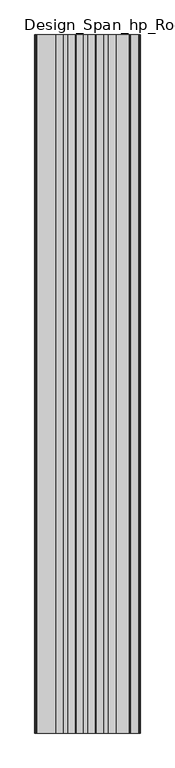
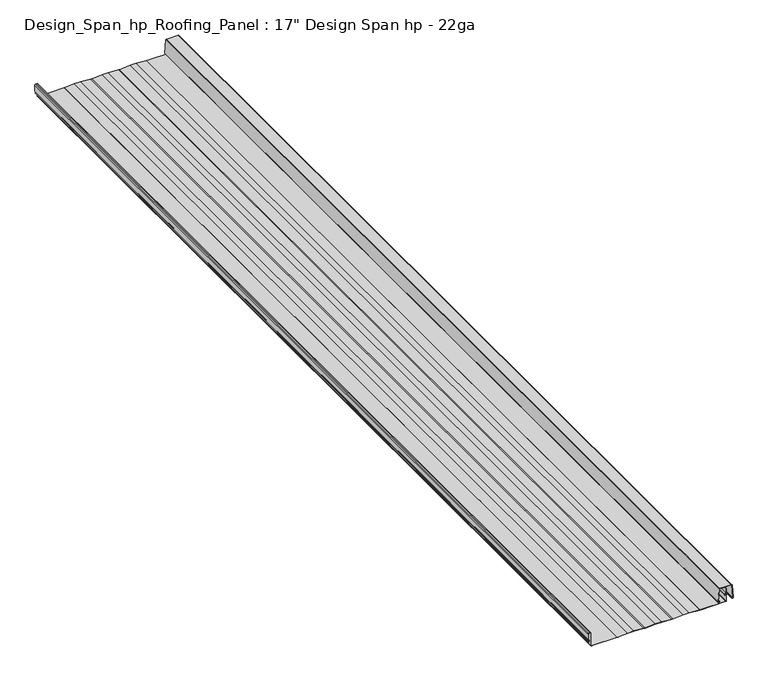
"""IFC4 building model written with IfcOpenShell, lengths in millimetres: proxy geometry."""

from ifc_helpers import new_model, si_unit, point, frame, frame_2d, origin, place, context, project, spatial, polyline, circle_curve, trimmed, segment, composite_curve, outline, extrude, faceted_brep, source, transform, mapped, element, save


def proxy_3b25000a(model_context):
    return source(origin(), model_context, "Body", "SolidModel", [
        extrude(outline(composite_curve([segment(polyline([(4.4419256, 234.1395257), (6.437251, 231.607061), (5.7905442, 231.154232), (3.9442331, 233.7910376)]), True, "CONTINUOUS"), segment(trimmed(circle_curve(frame_2d((5.6861569, 235.0107458)), 2.1264964), [point((3.9442331, 233.7910376))], [point((5.8529999, 237.1306869))], False, "CARTESIAN"), True, "CONTINUOUS"), segment(polyline([(5.8529999, 237.1306869), (48.7328659, 233.7559683)]), True, "CONTINUOUS"), segment(trimmed(circle_curve(frame_2d((48.5958163, 232.0145881)), 1.7467649), [point((48.7328659, 233.7559683))], [point((50.3425812, 232.0145881))], False, "CARTESIAN"), True, "CONTINUOUS"), segment(polyline([(50.3425812, 232.0145881), (50.3425812, 194.6286333)]), True, "CONTINUOUS"), segment(trimmed(circle_curve(frame_2d((48.5958163, 194.6286333)), 1.7467649), [point((50.3425812, 194.6286333))], [point((48.7736135, 192.8909406))], False, "CARTESIAN"), True, "CONTINUOUS"), segment(polyline([(48.7736135, 192.8909406), (5.8530235, 189.5125361)]), True, "CONTINUOUS"), segment(trimmed(circle_curve(frame_2d((5.6861569, 191.6324754)), 2.1264964), [point((5.8530235, 189.5125361))], [point((3.944233, 192.8521835))], False, "CARTESIAN"), True, "CONTINUOUS"), segment(polyline([(3.944233, 192.8521835), (5.7905442, 195.4889894), (6.4461875, 195.029903), (4.4419256, 192.4990132)]), True, "CONTINUOUS"), segment(trimmed(circle_curve(frame_2d((5.6861569, 191.627793)), 1.518926), [point((4.4419256, 192.4990132))], [point((5.805417, 190.1135562))], True, "CARTESIAN"), True, "CONTINUOUS"), segment(polyline([(5.805417, 190.1135562), (48.6981036, 193.4917491)]), True, "CONTINUOUS"), segment(trimmed(circle_curve(frame_2d((48.5948409, 194.6286333)), 1.1415643), [point((48.6981036, 193.4917491))], [point((49.7364052, 194.6286333))], True, "CARTESIAN"), True, "CONTINUOUS"), segment(polyline([(49.7364052, 194.6286333), (49.7364052, 232.0143592)]), True, "CONTINUOUS"), segment(trimmed(circle_curve(frame_2d((48.5965516, 232.0143592)), 1.1398536), [point((49.7364052, 232.0143592))], [point((48.6859705, 233.1507001))], True, "CARTESIAN"), True, "CONTINUOUS"), segment(polyline([(48.6859705, 233.1507001), (5.8053133, 236.5249908)]), True, "CONTINUOUS"), segment(trimmed(circle_curve(frame_2d((5.6861569, 235.0107458)), 1.518926), [point((5.8053133, 236.5249908))], [point((4.4419256, 234.1395257))], True, "CARTESIAN"), True, "CONTINUOUS")], self_intersect=False)), frame((0.0, -3048.0, 0.0), z_axis=(0.0, 1.0, 0.0), x_axis=(0.0, 0.0, 1.0)), (0.0, 0.0, 1.0), 3048.0),
        faceted_brep([(98.3896485, -3048.0, 2.1886753), (130.9591887, -3048.0, 0.0), (130.959119, -3048.0, 0.7815562), (98.3896485, -3048.0, 2.9702315), (78.8507431, -3048.0, 2.9702315), (46.2812018, -3048.0, 0.7815562), (42.3390647, -3048.0, 0.7815562), (9.7695234, -3048.0, 2.9702315), (-9.769382, -3048.0, 2.9702315), (-42.3389232, -3048.0, 0.7815562), (-46.2810604, -3048.0, 0.7815562), (-78.8506017, -3048.0, 2.9702315), (-98.3895071, -3048.0, 2.9702315), (-130.9590483, -3048.0, 0.7815609), (-130.959119, -3048.0, 0.0), (-98.3895071, -3048.0, 2.1886753), (-78.8506017, -3048.0, 2.1886753), (-46.2810604, -3048.0, 0.0), (-42.3389232, -3048.0, 0.0), (-9.769382, -3048.0, 2.1886753), (9.7695234, -3048.0, 2.1886753), (42.3390647, -3048.0, 0.0), (46.2812018, -3048.0, 0.0), (78.8507431, -3048.0, 2.1886753), (98.3896485, 0.0, 2.1886753), (78.8507431, 0.0, 2.1886753), (46.2812018, 0.0, 0.0), (42.3390647, 0.0, 0.0), (9.7695234, 0.0, 2.1886753), (-9.769382, 0.0, 2.1886753), (-42.3389232, 0.0, 0.0), (-46.2810604, 0.0, 0.0), (-78.8506017, 0.0, 2.1886753), (-98.3895071, 0.0, 2.1886753), (-130.959119, 0.0, 0.0), (-130.959119, 0.0, 0.7815609), (-98.3895071, 0.0, 2.9702315), (-78.8506017, 0.0, 2.9702315), (-46.2810604, 0.0, 0.7815562), (-42.3389232, 0.0, 0.7815562), (-9.769382, 0.0, 2.9702315), (9.7695234, 0.0, 2.9702315), (42.3390647, 0.0, 0.7815562), (46.2812018, 0.0, 0.7815562), (78.8507431, 0.0, 2.9702315), (98.3896485, 0.0, 2.9702315), (130.9591887, 0.0, 0.7815562), (130.959119, 0.0, 0.0)], [[[0, 1, 2, 3, 4, 5, 6, 7, 8, 9, 10, 11, 12, 13, 14, 15, 16, 17, 18, 19, 20, 21, 22, 23]], [[24, 25, 26, 27, 28, 29, 30, 31, 32, 33, 34, 35, 36, 37, 38, 39, 40, 41, 42, 43, 44, 45, 46, 47]], [[2, 1, 47, 46]], [[3, 2, 46, 45]], [[4, 3, 45, 44]], [[5, 4, 44, 43]], [[6, 5, 43, 42]], [[7, 6, 42, 41]], [[8, 7, 41, 40]], [[9, 8, 40, 39]], [[10, 9, 39, 38]], [[11, 10, 38, 37]], [[12, 11, 37, 36]], [[13, 12, 36, 35]], [[14, 13, 35, 34]], [[15, 14, 34, 33]], [[16, 15, 33, 32]], [[17, 16, 32, 31]], [[18, 17, 31, 30]], [[19, 18, 30, 29]], [[20, 19, 29, 28]], [[21, 20, 28, 27]], [[22, 21, 27, 26]], [[23, 22, 26, 25]], [[0, 23, 25, 24]], [[1, 0, 24, 47]]]),
        extrude(outline(composite_curve([segment(polyline([(42.1519319, 213.4511239), (30.9210398, 213.4511239), (23.9968051, 210.4404672)]), True, "CONTINUOUS"), segment(trimmed(circle_curve(frame_2d((23.5085734, 211.5633556)), 1.2244381), [point((23.9968051, 210.4404672))], [point((22.385685, 211.0751238))], False, "CARTESIAN"), True, "CONTINUOUS"), segment(trimmed(circle_curve(frame_2d((23.5085734, 211.5633556)), 1.2244381), [point((22.385685, 211.0751238))], [point((23.0203416, 212.686244))], False, "CARTESIAN"), True, "CONTINUOUS"), segment(polyline([(23.0203416, 212.686244), (26.5323542, 214.2132668), (26.8439915, 213.4965295), (23.3319789, 211.9695067)]), True, "CONTINUOUS"), segment(trimmed(circle_curve(frame_2d((23.5085734, 211.5633556)), 0.4428819), [point((23.3319789, 211.9695067))], [point((23.6851678, 211.1572045))], True, "CARTESIAN"), True, "CONTINUOUS"), segment(polyline([(23.6851678, 211.1572045), (30.3473938, 214.0539398)]), True, "CONTINUOUS"), segment(trimmed(circle_curve(frame_2d((31.2556072, 211.8359077)), 2.3967724), [point((30.3473938, 214.0539398))], [point((31.2556072, 214.2326801))], False, "CARTESIAN"), True, "CONTINUOUS"), segment(polyline([(31.2556072, 214.2326801), (42.1519319, 214.2326801)]), True, "CONTINUOUS"), segment(trimmed(circle_curve(frame_2d((42.1519319, 214.6755619)), 0.4428819), [point((42.1519319, 214.2326801))], [point((42.1519319, 215.1184438))], True, "CARTESIAN"), True, "CONTINUOUS"), segment(polyline([(42.1519319, 215.1184438), (2.3967724, 215.1184438)]), True, "CONTINUOUS"), segment(trimmed(circle_curve(frame_2d((2.3967724, 213.5032276)), 1.6152162), [point((2.3967724, 215.1184438))], [point((0.7815562, 213.5032276))], True, "CARTESIAN"), True, "CONTINUOUS"), segment(polyline([(0.7815562, 213.5032276), (0.7815562, 130.959119), (0.0, 130.959119), (0.0, 213.5032276)]), True, "CONTINUOUS"), segment(trimmed(circle_curve(frame_2d((2.3967724, 213.5032276)), 2.3967724), [point((0.0, 213.5032276))], [point((2.3967724, 215.9))], False, "CARTESIAN"), True, "CONTINUOUS"), segment(polyline([(2.3967724, 215.9), (42.1519319, 215.9)]), True, "CONTINUOUS"), segment(trimmed(circle_curve(frame_2d((42.1519319, 214.6755619)), 1.2244381), [point((42.1519319, 215.9))], [point((43.37637, 214.6755619))], False, "CARTESIAN"), True, "CONTINUOUS"), segment(trimmed(circle_curve(frame_2d((42.1519319, 214.6755619)), 1.2244381), [point((43.37637, 214.6755619))], [point((42.1519319, 213.4511239))], False, "CARTESIAN"), True, "CONTINUOUS")], self_intersect=False)), frame((0.0, -3048.0, 0.0), z_axis=(0.0, 1.0, 0.0), x_axis=(0.0, 0.0, 1.0)), (0.0, 0.0, 1.0), 3048.0),
        extrude(outline(composite_curve([segment(polyline([(0.0, -213.5032347), (0.0, -130.959119), (0.7815609, -130.959119), (0.7815609, -213.5032217)]), True, "CONTINUOUS"), segment(trimmed(circle_curve(frame_2d((2.39677, -213.5032217)), 1.6152092), [point((0.7815609, -213.5032217))], [point((2.39677, -215.1184309))], True, "CARTESIAN"), True, "CONTINUOUS"), segment(polyline([(2.39677, -215.1184309), (43.1940318, -215.1184309)]), True, "CONTINUOUS"), segment(trimmed(circle_curve(frame_2d((43.1940318, -217.5152285)), 2.3967976), [point((43.1940318, -215.1184309))], [point((45.5908294, -217.5152285))], False, "CARTESIAN"), True, "CONTINUOUS"), segment(polyline([(45.5908294, -217.5152285), (45.5908294, -221.5794084)]), True, "CONTINUOUS"), segment(trimmed(circle_curve(frame_2d((43.193957, -221.5794084)), 2.3968724), [point((45.5908294, -221.5794084))], [point((43.193957, -223.9762808))], False, "CARTESIAN"), True, "CONTINUOUS"), segment(polyline([(43.193957, -223.9762808), (22.4058602, -223.9762808)]), True, "CONTINUOUS"), segment(trimmed(circle_curve(frame_2d((22.4058602, -222.152135)), 1.8241458), [point((22.4058602, -223.9762808))], [point((20.5952813, -221.9300713))], False, "CARTESIAN"), True, "CONTINUOUS"), segment(trimmed(circle_curve(frame_2d((19.5550248, -221.8573483)), 1.0427954), [point((20.5952813, -221.9300713))], [point((19.1140543, -220.9123787))], True, "CARTESIAN"), True, "CONTINUOUS"), segment(polyline([(19.1140543, -220.9123787), (15.2850421, -222.6980956), (14.9547093, -221.9897815), (18.7837558, -220.2040487)]), True, "CONTINUOUS"), segment(trimmed(circle_curve(frame_2d((19.5550248, -221.8573432)), 1.8243461), [point((18.7837558, -220.2040487))], [point((21.3658028, -222.0794277))], False, "CARTESIAN"), True, "CONTINUOUS"), segment(trimmed(circle_curve(frame_2d((22.4058592, -222.1521329)), 1.0425946), [point((21.3658028, -222.0794277))], [point((22.4058592, -223.1947275))], True, "CARTESIAN"), True, "CONTINUOUS"), segment(polyline([(22.4058592, -223.1947275), (43.1939563, -223.1947275)]), True, "CONTINUOUS"), segment(trimmed(circle_curve(frame_2d((43.1939563, -221.5794099)), 1.6153176), [point((43.1939563, -223.1947275))], [point((44.8092739, -221.5794099))], True, "CARTESIAN"), True, "CONTINUOUS"), segment(polyline([(44.8092739, -221.5794099), (44.8092739, -217.5152417)]), True, "CONTINUOUS"), segment(trimmed(circle_curve(frame_2d((43.1940321, -217.5152417)), 1.6152417), [point((44.8092739, -217.5152417))], [point((43.1940321, -215.9))], True, "CARTESIAN"), True, "CONTINUOUS"), segment(polyline([(43.1940321, -215.9), (2.3967653, -215.9)]), True, "CONTINUOUS"), segment(trimmed(circle_curve(frame_2d((2.3967653, -213.5032347)), 2.3967653), [point((2.3967653, -215.9))], [point((0.0, -213.5032347))], False, "CARTESIAN"), True, "CONTINUOUS")], self_intersect=False)), frame((0.0, -3048.0, 0.0), z_axis=(0.0, 1.0, 0.0), x_axis=(0.0, 0.0, 1.0)), (0.0, 0.0, 1.0), 3048.0),
    ])


if __name__ == "__main__":
    model = new_model("IFC4")
    model_context = context("Model", 3, world=origin())
    ifc_project = project(units=[si_unit("LENGTHUNIT", "METRE", prefix="MILLI")], contexts=[model_context])
    site = spatial("IfcSite", under=ifc_project)
    building = spatial("IfcBuilding", under=site)
    placement = place(None, origin())
    proxy_shape = proxy_3b25000a(model_context)
    element("IfcBuildingElementProxy", 1, Name="Design_Span_hp_Roofing_Panel : 17\" Design Span hp - 22ga", ObjectType="Design_Span_hp_Roofing_Panel : 17\" Design Span hp - 22ga", at=placement, inside=building, context=model_context, shape_type="MappedRepresentation", body=[
        mapped(proxy_shape, transform((0.0, 0.0, 0.0), x_axis=(1.0, 0.0, 0.0), y_axis=(0.0, 1.0, 0.0), z_axis=(0.0, 0.0, 1.0))),
    ])
    save(model, "model.ifc")
